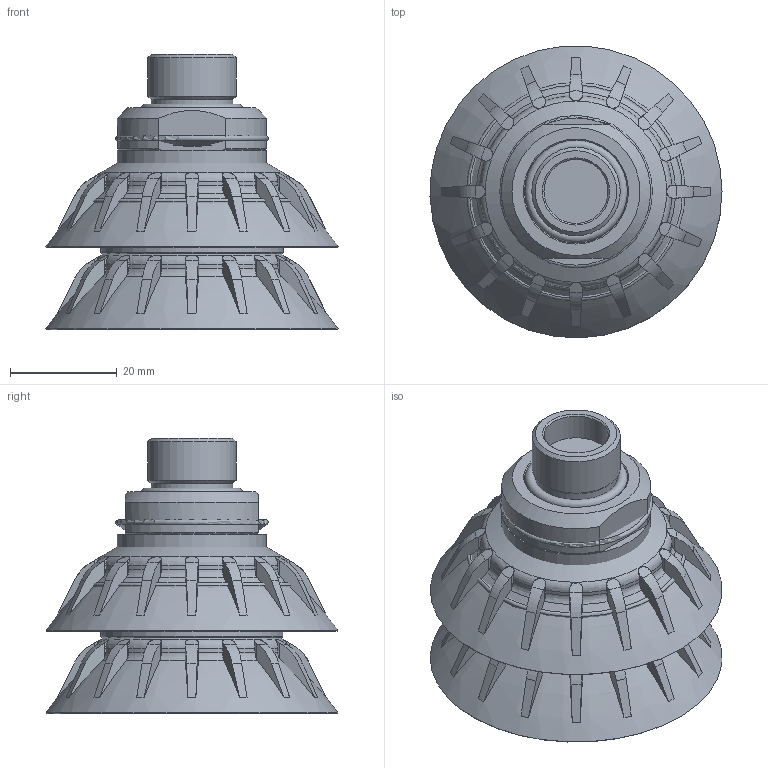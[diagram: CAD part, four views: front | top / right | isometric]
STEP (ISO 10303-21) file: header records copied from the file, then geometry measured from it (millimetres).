
FILE_DESCRIPTION( ( 'Unknown' ), '1' );
FILE_NAME( 'C:/Documents and Settings/Administrator/官帕 拳搁/Magic Cup (Dim)/B1.5/X TYPE/B1.5-40/B1.5-40-X55-N6-A-F2-38M.stp', 'Unknown', ( 'Unknown' ), ( 'Unknown' ), 'XStep 1.0', 'Unknown', ' ' );
FILE_SCHEMA( ( 'automotive_design' ) );
Length unit declared in the file: millimetre
Products named in the file (8): Assem1; Assem2; Assem3; B1.5-40(DIM); 40-38M(DIM); 38M-Oring(DIM); X55(DIM); 赤40 STOPPER 
Bounding box: 54.79 x 54.73 x 51.65 mm (x, y, z)
Volume: 57399.7 mm3; surface area: 58191.8 mm2
Topology: 15 solids, 15 shells, 2073 faces, 5781 edges, 3738 vertices
Faces by surface type: cylinder 567, plane 525, torus 462, cone 321, bspline 198
Full cylindrical faces by diameter (mm): 12 x3, 15.3 x3, 16.6 x3, 19.3 x3, 21 x6, 21.5 x6, 22 x3, 24 x3, 24.8 x3, 27.8 x3, 28 x3, 32 x3, 34.2 x3, 41 x3
Entity records: 30054 total; most frequent: CARTESIAN_POINT 14397, ORIENTED_EDGE 3680, DIRECTION 2599, EDGE_CURVE 1840, VERTEX_POINT 1234, AXIS2_PLACEMENT_3D 1136, B_SPLINE_CURVE_WITH_KNOTS 1010, EDGE_LOOP 772
